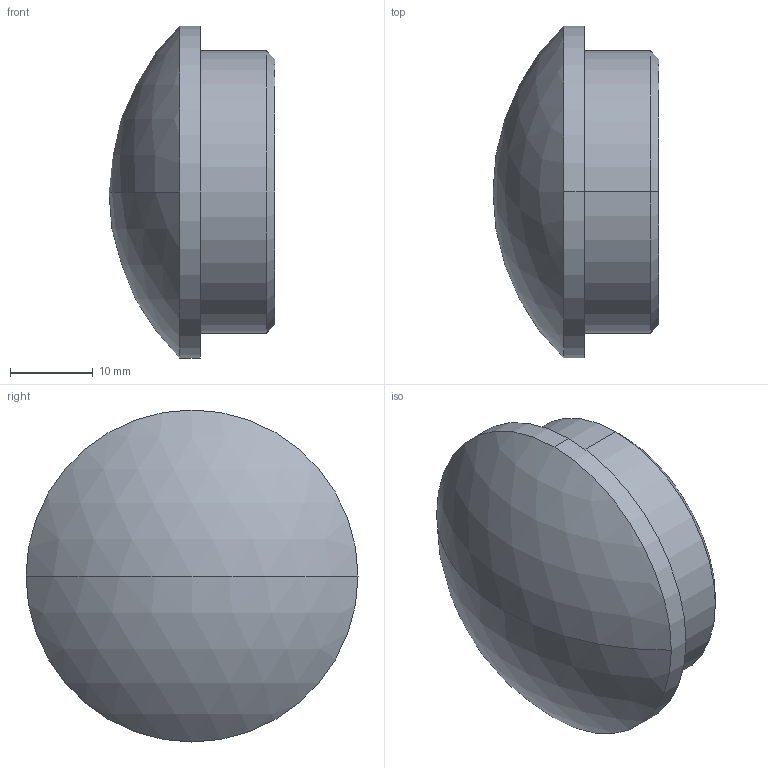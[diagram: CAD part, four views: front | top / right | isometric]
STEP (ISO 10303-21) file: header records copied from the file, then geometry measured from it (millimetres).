
FILE_DESCRIPTION (( 'STEP AP203' ), '1' );
FILE_NAME ('3D_GR1392_DN40x3_18380230.STEP', '2024-09-21T10:19:21', ( '' ), ( '' ), 'SwSTEP 2.0', 'SolidWorks 2024', '' );
FILE_SCHEMA (( 'CONFIG_CONTROL_DESIGN' ));
Length unit declared in the file: millimetre
Products named in the file (1): 3D_GR1392_DN40x3_18380230
Bounding box: 20 x 40 x 40 mm (x, y, z)
Volume: 16922.8 mm3; surface area: 3951.9 mm2
Topology: 1 solids, 1 shells, 10 faces, 20 edges, 13 vertices
Faces by surface type: cylinder 4, cone 2, sphere 2, plane 2
Entity records: 347 total; most frequent: DIRECTION 56, CARTESIAN_POINT 44, ORIENTED_EDGE 40, AXIS2_PLACEMENT_3D 25, EDGE_CURVE 20, CIRCLE 14, VERTEX_POINT 13, EDGE_LOOP 11
